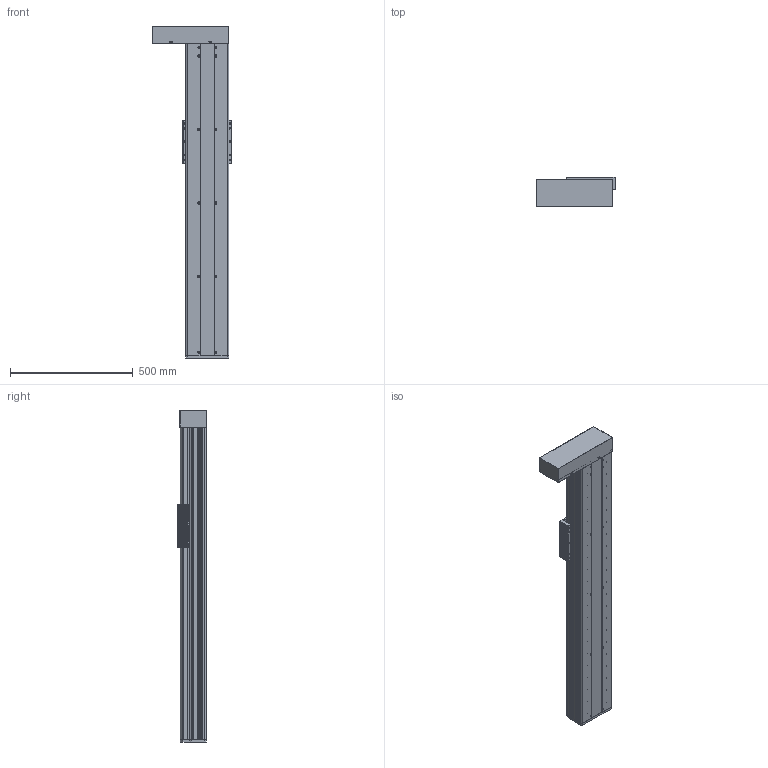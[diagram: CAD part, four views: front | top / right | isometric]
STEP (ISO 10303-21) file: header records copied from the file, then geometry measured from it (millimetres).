
FILE_DESCRIPTION (( 'STEP AP214' ), '1' );
FILE_NAME ('CF175B-C-1000-FWL.STEP', '2020-01-02T01:07:57', ( '微软用户' ), ( '微软中国' ), 'SwSTEP 2.0', 'SolidWorks 2016', '' );
FILE_SCHEMA (( 'AUTOMOTIVE_DESIGN' ));
Length unit declared in the file: millimetre
Products named in the file (12): CF175-2蹟譫釱; 175-2盓傅釱; 175-2耜啣; CF-EGH20CA賑輸; CF175B-C-1000-FWL; 肮祭謫欶; 175B殏俔萇儂啣; 175-2同步带从动端固定座; CF175-2賑雄啣; EGR20絳寢-1000; 175B臏倰第-1000; CF175B-1000
Assembly tree (15 placements, depth 2):
  CF175B-C-1000-FWL
    CF-EGH20CA賑輸  x4
    175-2耜啣
    175-2盓傅釱
    CF175-2蹟譫釱
    CF175B-1000
    175B臏倰第-1000
    EGR20絳寢-1000  x2
    CF175-2賑雄啣
    175-2同步带从动端固定座
    175B殏俔萇儂啣
    肮祭謫欶
Bounding box: 324.5 x 118.3 x 1355 mm (x, y, z)
Volume: 9363140.1 mm3; surface area: 2810434.1 mm2
Topology: 21 solids, 21 shells, 1460 faces, 3773 edges, 2501 vertices
Faces by surface type: cylinder 763, plane 687, cone 8, bspline 2
Entity records: 36612 total; most frequent: DIRECTION 6249, CARTESIAN_POINT 6034, ORIENTED_EDGE 5664, EDGE_CURVE 2832, AXIS2_PLACEMENT_3D 2336, VERTEX_POINT 1881, LINE 1577, VECTOR 1577
